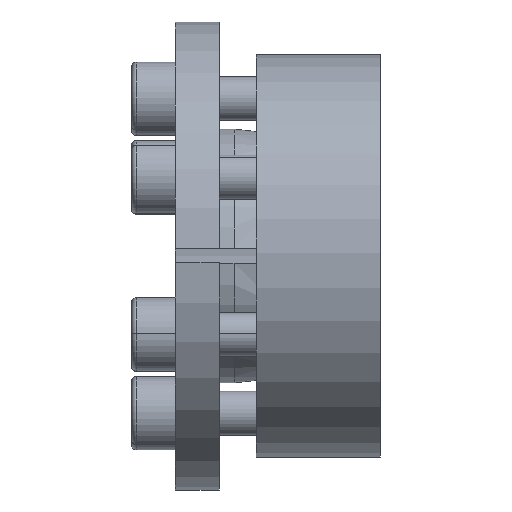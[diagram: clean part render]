
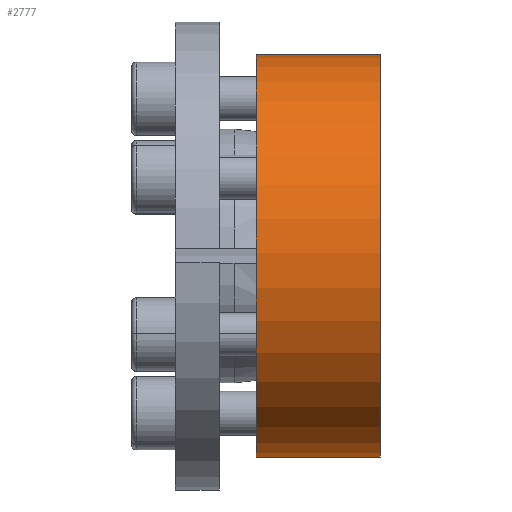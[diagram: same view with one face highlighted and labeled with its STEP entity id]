
A CAD part, top view. The second image highlights one B-rep face of the part: STEP entity #2777.
In plain terms, the highlighted cylindrical face has radius 27.5 mm (diameter 55 mm), a partial arc.
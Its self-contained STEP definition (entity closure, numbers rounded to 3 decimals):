
#45 = VERTEX_POINT ( 'NONE', #4707 ) ;
#87 = LINE ( 'NONE', #3910, #4126 ) ;
#269 = AXIS2_PLACEMENT_3D ( 'NONE', #1115, #1097, #1096 ) ;
#549 = VERTEX_POINT ( 'NONE', #3435 ) ;
#577 = EDGE_CURVE ( 'NONE', #4549, #45, #1099, .T. ) ;
#699 = DIRECTION ( 'NONE',  ( 1., 0., 0. ) ) ;
#1005 = CARTESIAN_POINT ( 'NONE',  ( -7.562, -23.355, -12.867 ) ) ;
#1052 = CARTESIAN_POINT ( 'NONE',  ( -24.562, -23.355, -12.867 ) ) ;
#1096 = DIRECTION ( 'NONE',  ( 0., -0.866, -0.5 ) ) ;
#1097 = DIRECTION ( 'NONE',  ( -1., 0., 0. ) ) ;
#1099 = CIRCLE ( 'NONE', #4649, 27.5 ) ;
#1115 = CARTESIAN_POINT ( 'NONE',  ( -24.562, 0.945, 0.008 ) ) ;
#1296 = EDGE_CURVE ( 'NONE', #4549, #3945, #4395, .T. ) ;
#1298 = DIRECTION ( 'NONE',  ( -1., 0., 0. ) ) ;
#1437 = ORIENTED_EDGE ( 'NONE', *, *, #4837, .T. ) ;
#1549 = EDGE_CURVE ( 'NONE', #549, #45, #87, .T. ) ;
#1645 = FACE_OUTER_BOUND ( 'NONE', #3090, .T. ) ;
#1749 = CARTESIAN_POINT ( 'NONE',  ( -7.562, 0.945, 0.008 ) ) ;
#2131 = DIRECTION ( 'NONE',  ( 0., -0.866, -0.5 ) ) ;
#2213 = ORIENTED_EDGE ( 'NONE', *, *, #577, .F. ) ;
#2283 = CARTESIAN_POINT ( 'NONE',  ( -24.562, -23.355, -12.867 ) ) ;
#2690 = AXIS2_PLACEMENT_3D ( 'NONE', #1749, #4366, #2131 ) ;
#2777 = ADVANCED_FACE ( 'NONE', ( #1645 ), #3419, .T. ) ;
#2858 = CIRCLE ( 'NONE', #2690, 27.5 ) ;
#3090 = EDGE_LOOP ( 'NONE', ( #2213, #4315, #1437, #4419 ) ) ;
#3189 = DIRECTION ( 'NONE',  ( 0., -0.866, -0.5 ) ) ;
#3191 = VECTOR ( 'NONE', #699, 1000. ) ;
#3195 = DIRECTION ( 'NONE',  ( -1., 0., 0. ) ) ;
#3204 = CARTESIAN_POINT ( 'NONE',  ( -24.562, 0.945, 0.008 ) ) ;
#3419 = CYLINDRICAL_SURFACE ( 'NONE', #269, 27.5 ) ;
#3435 = CARTESIAN_POINT ( 'NONE',  ( -7.562, -22.355, -14.599 ) ) ;
#3910 = CARTESIAN_POINT ( 'NONE',  ( -24.562, -22.355, -14.599 ) ) ;
#3945 = VERTEX_POINT ( 'NONE', #1005 ) ;
#4126 = VECTOR ( 'NONE', #1298, 1000. ) ;
#4315 = ORIENTED_EDGE ( 'NONE', *, *, #1296, .T. ) ;
#4366 = DIRECTION ( 'NONE',  ( -1., 0., 0. ) ) ;
#4395 = LINE ( 'NONE', #1052, #3191 ) ;
#4419 = ORIENTED_EDGE ( 'NONE', *, *, #1549, .T. ) ;
#4549 = VERTEX_POINT ( 'NONE', #2283 ) ;
#4649 = AXIS2_PLACEMENT_3D ( 'NONE', #3204, #3195, #3189 ) ;
#4707 = CARTESIAN_POINT ( 'NONE',  ( -24.562, -22.355, -14.599 ) ) ;
#4837 = EDGE_CURVE ( 'NONE', #3945, #549, #2858, .T. ) ;
